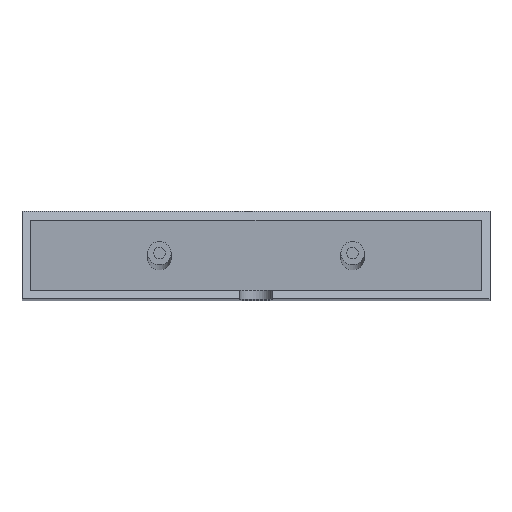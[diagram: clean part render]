
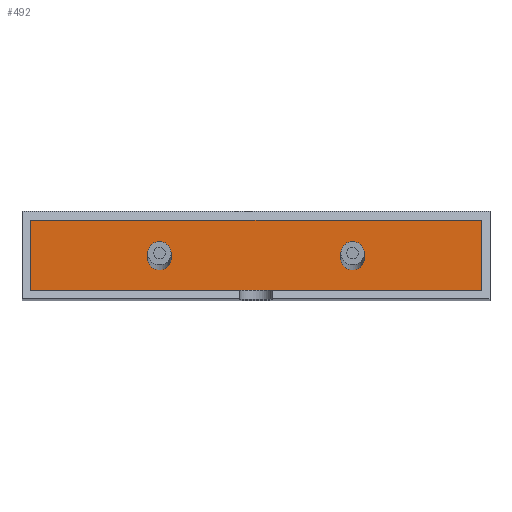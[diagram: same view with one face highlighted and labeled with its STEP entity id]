
A CAD part, top view. The second image highlights one B-rep face of the part: STEP entity #492.
In plain terms, the highlighted planar face has unit normal (0, 0, 1).
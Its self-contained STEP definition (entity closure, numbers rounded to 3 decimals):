
#16=LINE($,#723,#66);
#17=LINE($,#725,#67);
#18=LINE($,#727,#68);
#19=LINE($,#728,#69);
#66=VECTOR($,#596,77.);
#67=VECTOR($,#597,12.);
#68=VECTOR($,#598,77.);
#69=VECTOR($,#599,12.);
#117=PLANE($,#531);
#142=FACE_BOUND($,#185,.T.);
#143=FACE_BOUND($,#186,.T.);
#144=FACE_BOUND($,#187,.T.);
#185=EDGE_LOOP($,(#342));
#186=EDGE_LOOP($,(#343));
#187=EDGE_LOOP($,(#344,#345,#346,#347));
#209=CIRCLE($,#520,2.);
#213=CIRCLE($,#528,2.);
#221=VERTEX_POINT($,#696);
#225=VERTEX_POINT($,#708);
#230=VERTEX_POINT($,#721);
#231=VERTEX_POINT($,#722);
#232=VERTEX_POINT($,#724);
#233=VERTEX_POINT($,#726);
#265=EDGE_CURVE($,#221,#221,#209,.T.);
#269=EDGE_CURVE($,#225,#225,#213,.T.);
#274=EDGE_CURVE($,#230,#231,#16,.T.);
#275=EDGE_CURVE($,#232,#230,#17,.T.);
#276=EDGE_CURVE($,#233,#232,#18,.T.);
#277=EDGE_CURVE($,#231,#233,#19,.T.);
#342=ORIENTED_EDGE($,*,*,#265,.T.);
#343=ORIENTED_EDGE($,*,*,#269,.T.);
#344=ORIENTED_EDGE($,*,*,#274,.F.);
#345=ORIENTED_EDGE($,*,*,#275,.F.);
#346=ORIENTED_EDGE($,*,*,#276,.F.);
#347=ORIENTED_EDGE($,*,*,#277,.F.);
#492=ADVANCED_FACE($,(#142,#143,#144),#117,.T.);
#520=AXIS2_PLACEMENT_3D($,#697,#568,#569);
#528=AXIS2_PLACEMENT_3D($,#709,#584,#585);
#531=AXIS2_PLACEMENT_3D($,#720,#594,#595);
#568=DIRECTION('center_axis',(0.,0.,
-1.));
#569=DIRECTION('ref_axis',(-1.,0.,0.));
#584=DIRECTION('center_axis',(0.,0.,
-1.));
#585=DIRECTION('ref_axis',(-1.,0.,0.));
#594=DIRECTION('center_axis',(0.,0.,
1.));
#595=DIRECTION('ref_axis',(1.,0.,0.));
#596=DIRECTION($,(1.,0.,0.));
#597=DIRECTION($,(0.,1.,0.));
#598=DIRECTION($,(-1.,0.,0.));
#599=DIRECTION($,(0.,-1.,0.));
#696=CARTESIAN_POINT('',(-8.078,3.909,71.621));
#697=CARTESIAN_POINT('Origin',(-10.078,3.909,71.621));
#708=CARTESIAN_POINT('',(24.922,3.909,71.621));
#709=CARTESIAN_POINT('Origin',(22.922,3.909,71.621));
#720=CARTESIAN_POINT('Origin',(6.422,4.409,71.621));
#721=CARTESIAN_POINT('',(-32.078,10.409,71.621));
#722=CARTESIAN_POINT('',(44.922,10.409,71.621));
#723=CARTESIAN_POINT($,(26.422,10.409,71.621));
#724=CARTESIAN_POINT('',(-32.078,-1.591,71.621));
#725=CARTESIAN_POINT($,(-32.078,8.159,71.621));
#726=CARTESIAN_POINT('',(44.922,-1.591,71.621));
#727=CARTESIAN_POINT($,(-13.578,-1.591,71.621));
#728=CARTESIAN_POINT($,(44.922,0.659,71.621));
